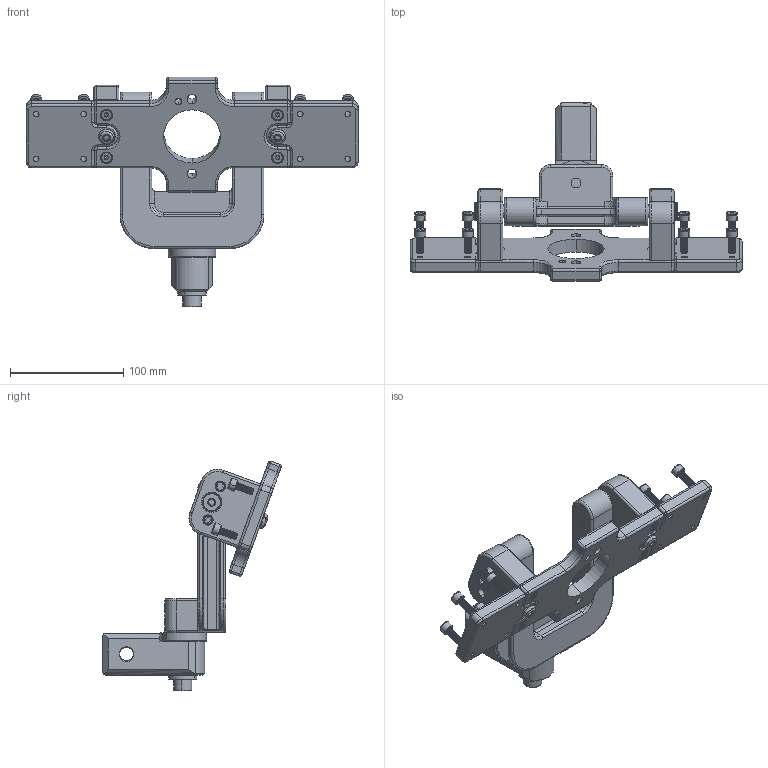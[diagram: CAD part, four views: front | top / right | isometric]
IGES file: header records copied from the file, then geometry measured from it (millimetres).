
Start section:  PTC IGES file: 6158125760.igs
Global section: file name: 6158125760.igs; native system: Creo Parametric by PTC Inc.; preprocessor: 2016050; author: greextsd; organization: Unknown; date: 20160602.143948; units: millimetre
Bounding box: 293 x 157.59 x 202.83 mm (x, y, z)
Volume: 695934.4 mm3; surface area: 144765.8 mm2
Topology: 10 solids, 12 shells, 3280 faces, 8310 edges, 5069 vertices
Faces by surface type: revolution 1701, bspline 1579
